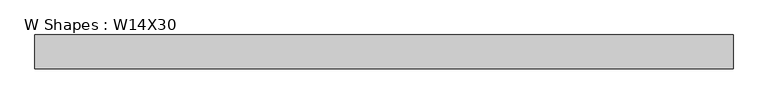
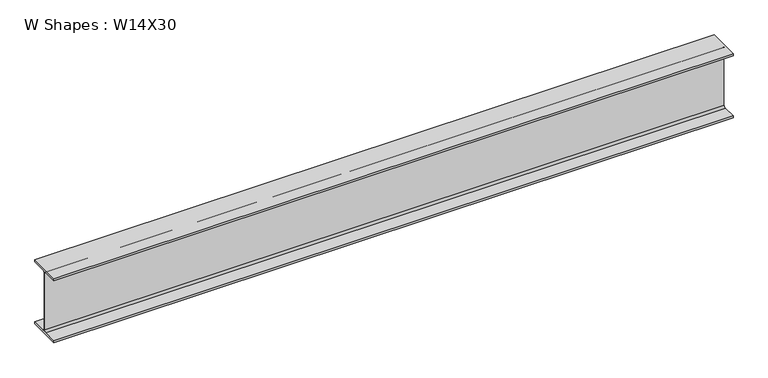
"""IFC4 building model written with IfcOpenShell, lengths in millimetres: beam geometry, W Shapes : W14X30."""

import ifcopenshell
import ifcopenshell.guid

model = None  # the IFC model being written
_history = None  # IfcOwnerHistory: only IFC2X3 demands one
_inside = {}  # id of a spatial element -> (the spatial element, [elements in it])
_under = {}  # id of a project, library or spatial element -> (it, [spatial elements below it])
_declared = {}  # id of a project -> (the project, [libraries it declares])
_typed = {}  # id of a type object -> (the type object, [elements of that type])
_made_of = {}  # id of a material, layer set ... -> (it, [elements and type objects made of it])


def new_model(schema):
    """Start an empty IFC model of exactly this schema.

    Asked for "IFC4X3", IfcOpenShell would pick the latest addendum, in which some entities
    have other attributes; the version numbers below select the first issue.
    IFC2X3 requires an IfcOwnerHistory on every rooted entity: one is made here for all.
    """
    global model, _history
    if schema == "IFC4X3":
        model = ifcopenshell.file(schema_version=(4, 3, 0, 0))
    else:
        model = ifcopenshell.file(schema=schema)
    _inside.clear()
    _under.clear()
    _declared.clear()
    _typed.clear()
    _made_of.clear()
    _history = None
    if model.schema == "IFC2X3":
        org = make("IfcOrganization", Name="unknown")
        user = make(
            "IfcPersonAndOrganization",
            ThePerson=make("IfcPerson", FamilyName="unknown"),
            TheOrganization=org,
        )
        app = make(
            "IfcApplication",
            ApplicationDeveloper=org,
            Version="unknown",
            ApplicationFullName="unknown",
            ApplicationIdentifier="unknown",
        )
        _history = make(
            "IfcOwnerHistory",
            OwningUser=user,
            OwningApplication=app,
            ChangeAction="ADDED",
            CreationDate=0,
        )
    return model


def make(cls, **values):
    """One entity of the class cls with the attributes given. An attribute that is None is left unset."""
    return model.create_entity(
        cls, **{name: value for name, value in values.items() if value is not None}
    )


def rooted(cls, **values):
    """An entity with a GlobalId (a new one), such as an element, a storey or a relation."""
    return make(cls, GlobalId=ifcopenshell.guid.new(), OwnerHistory=_history, **values)


def si_unit(unit_type, name, prefix=None):
    """IfcSIUnit, for example si_unit("LENGTHUNIT", "METRE", prefix="MILLI")."""
    return make("IfcSIUnit", UnitType=unit_type, Prefix=prefix, Name=name)


def assignment(units):
    """IfcUnitAssignment: the units of a project."""
    return None if units is None else make("IfcUnitAssignment", Units=units)


def point(xyz):
    """IfcCartesianPoint."""
    return None if xyz is None else make("IfcCartesianPoint", Coordinates=xyz)


def direction(xyz):
    """IfcDirection."""
    return None if xyz is None else make("IfcDirection", DirectionRatios=xyz)


def frame(location, z_axis=None, x_axis=None):
    """IfcAxis2Placement3D, a coordinate frame: its origin and axes. An axis left out is left unset."""
    return make(
        "IfcAxis2Placement3D",
        Location=point(location),
        Axis=direction(z_axis),
        RefDirection=direction(x_axis),
    )


def frame_2d(location, x_axis=None):
    """IfcAxis2Placement2D, a coordinate frame in the plane: its origin and x axis."""
    return make(
        "IfcAxis2Placement2D", Location=point(location), RefDirection=direction(x_axis)
    )


def origin():
    """The frame at (0, 0, 0) with its axes left unset."""
    return frame((0.0, 0.0, 0.0))


def place(relative_to, where):
    """IfcLocalPlacement: puts the frame where relative to a parent placement (None: the world)."""
    return make(
        "IfcLocalPlacement", PlacementRelTo=relative_to, RelativePlacement=where
    )


def context(
    kind, dimensions, precision=None, world=None, true_north=None, identifier=None
):
    """IfcGeometricRepresentationContext, for example the 3D "Model" context."""
    return make(
        "IfcGeometricRepresentationContext",
        ContextIdentifier=identifier,
        ContextType=kind,
        CoordinateSpaceDimension=dimensions,
        Precision=precision,
        WorldCoordinateSystem=world,
        TrueNorth=true_north,
    )


def project(units=None, contexts=None):
    """IfcProject with its units and contexts."""
    return rooted(
        "IfcProject",
        Name="project",
        RepresentationContexts=contexts,
        UnitsInContext=assignment(units),
    )


def spatial(cls, under=None, at=None, **own):
    """A site, building, storey or space (cls), placed at a placement, below another one or the project."""
    s = rooted(cls, ObjectPlacement=at, **own)
    if under is not None:
        _under.setdefault(under.id(), (under, []))[1].append(s)
    return s


def polyline(points):
    """IfcPolyline through the points."""
    return make("IfcPolyline", Points=[point(p) for p in points])


def circle_curve(where, radius):
    """IfcCircle in the frame where."""
    return make("IfcCircle", Position=where, Radius=radius)


def trimmed(basis, trim1, trim2, sense, master):
    """IfcTrimmedCurve: the piece of a basis curve between two trims."""
    return make(
        "IfcTrimmedCurve",
        BasisCurve=basis,
        Trim1=trim1,
        Trim2=trim2,
        SenseAgreement=sense,
        MasterRepresentation=master,
    )


def segment(curve, same_sense, transition):
    """IfcCompositeCurveSegment."""
    return make(
        "IfcCompositeCurveSegment",
        Transition=transition,
        SameSense=same_sense,
        ParentCurve=curve,
    )


def composite_curve(segments, self_intersect=None):
    """IfcCompositeCurve: segments joined end to end."""
    return make("IfcCompositeCurve", Segments=segments, SelfIntersect=self_intersect)


def outline(outer, holes=None, kind="AREA"):
    """IfcArbitraryClosedProfileDef: a profile drawn as a closed curve; with holes, ...WithVoids."""
    if holes is None:
        return make("IfcArbitraryClosedProfileDef", ProfileType=kind, OuterCurve=outer)
    return make(
        "IfcArbitraryProfileDefWithVoids",
        ProfileType=kind,
        OuterCurve=outer,
        InnerCurves=holes,
    )


def extrude(swept, where, along, depth):
    """IfcExtrudedAreaSolid: the profile swept, set in the frame where, extruded along a direction by depth."""
    return make(
        "IfcExtrudedAreaSolid",
        SweptArea=swept,
        Position=where,
        ExtrudedDirection=direction(along),
        Depth=depth,
    )


def shape(context_of_items, identifier, shape_type, items):
    """IfcShapeRepresentation: the items that make up one representation, for example the "Body"."""
    return make(
        "IfcShapeRepresentation",
        ContextOfItems=context_of_items,
        RepresentationIdentifier=identifier,
        RepresentationType=shape_type,
        Items=items,
    )


def source(mapping_origin, context_of_items, identifier, shape_type, items):
    """IfcRepresentationMap: a shape defined once, which mapped items show again and again."""
    return make(
        "IfcRepresentationMap",
        MappingOrigin=mapping_origin,
        MappedRepresentation=shape(context_of_items, identifier, shape_type, items),
    )


def transform(
    local_origin,
    x_axis=None,
    y_axis=None,
    z_axis=None,
    scale=None,
    scale2=None,
    scale3=None,
    uniform=True,
):
    """IfcCartesianTransformationOperator3D, or its non-uniform kind. x_axis, y_axis, z_axis: its Axis1, 2, 3."""
    if uniform:
        return make(
            "IfcCartesianTransformationOperator3D",
            Axis1=direction(x_axis),
            Axis2=direction(y_axis),
            LocalOrigin=point(local_origin),
            Scale=scale,
            Axis3=direction(z_axis),
        )
    return make(
        "IfcCartesianTransformationOperator3DnonUniform",
        Axis1=direction(x_axis),
        Axis2=direction(y_axis),
        LocalOrigin=point(local_origin),
        Scale=scale,
        Axis3=direction(z_axis),
        Scale2=scale2,
        Scale3=scale3,
    )


def mapped(mapping_source, mapping_target):
    """IfcMappedItem: shows the shape of a source again, moved by a transform."""
    return make(
        "IfcMappedItem", MappingSource=mapping_source, MappingTarget=mapping_target
    )


def made_of(thing, what):
    """Note that an element or type object is made of a material, layer set ...; save() writes the relation."""
    if what is not None:
        _made_of.setdefault(what.id(), (what, []))[1].append(thing)
    return thing


def element(
    cls,
    number,
    at=None,
    inside=None,
    cuts=None,
    type_object=None,
    material=None,
    context=None,
    identifier="Body",
    shape_type=None,
    held_by="IfcProductDefinitionShape",
    body=None,
    shapes=None,
    **own,
):
    """One element of the class cls, such as IfcWall. Its Tag is "e" and its number.

    at: its placement. inside: the storey or other place that contains it. cuts: it is an
    opening in that element (IfcRelVoidsElement). A single representation is given by context,
    identifier, shape_type and body (its items); several are given by shapes. held_by: the class
    of the entity that holds the representations. save() writes the other relations.
    """
    e = rooted(cls, Tag="e%d" % number, ObjectPlacement=at, **own)
    if body is not None:
        shapes = [shape(context, identifier, shape_type, body)]
    if shapes is not None:
        e.Representation = make(held_by, Representations=shapes)
    if inside is not None:
        _inside.setdefault(inside.id(), (inside, []))[1].append(e)
    if cuts is not None:
        rooted(
            "IfcRelVoidsElement", RelatingBuildingElement=cuts, RelatedOpeningElement=e
        )
    if type_object is not None:
        _typed.setdefault(type_object.id(), (type_object, []))[1].append(e)
    return made_of(e, material)


def aggregate(whole, parts):
    """IfcRelAggregates: a whole, such as a stair, and the parts it consists of."""
    return rooted("IfcRelAggregates", RelatingObject=whole, RelatedObjects=parts)


def save(model, path):
    """Write the relations noted so far, then the file.

    IfcRelAggregates (storeys below a building ...), IfcRelContainedInSpatialStructure (elements
    in a storey), IfcRelDefinesByType, IfcRelAssociatesMaterial and IfcRelDeclares: one each for
    every whole, place, type object, material and project.
    """
    for whole, parts in _under.values():
        aggregate(whole, parts)
    for where, things in _inside.values():
        rooted(
            "IfcRelContainedInSpatialStructure",
            RelatedElements=things,
            RelatingStructure=where,
        )
    for kind, things in _typed.values():
        rooted("IfcRelDefinesByType", RelatedObjects=things, RelatingType=kind)
    for what, things in _made_of.values():
        rooted("IfcRelAssociatesMaterial", RelatedObjects=things, RelatingMaterial=what)
    for by, libraries in _declared.values():
        rooted("IfcRelDeclares", RelatingContext=by, RelatedDefinitions=libraries)
    model.write(path)


def w_shapes_w14x30_3a7400f0(model_context):
    return source(origin(), model_context, "Body", "SweptSolid", [
        extrude(outline(composite_curve([segment(polyline([(85.471, -165.354), (85.471, -175.26), (-85.471, -175.26), (-85.471, -165.354), (-13.589, -165.354)]), True, "CONTINUOUS"), segment(trimmed(circle_curve(frame_2d((-13.589, -155.194)), 10.16), [point((-13.589, -165.354))], [point((-3.429, -155.194))], True, "CARTESIAN"), True, "CONTINUOUS"), segment(polyline([(-3.429, -155.194), (-3.429, 155.194)]), True, "CONTINUOUS"), segment(trimmed(circle_curve(frame_2d((-13.589, 155.194)), 10.16), [point((-3.429, 155.194))], [point((-13.589, 165.354))], True, "CARTESIAN"), True, "CONTINUOUS"), segment(polyline([(-13.589, 165.354), (-85.471, 165.354), (-85.471, 175.26), (85.471, 175.26), (85.471, 165.354), (13.589, 165.354)]), True, "CONTINUOUS"), segment(trimmed(circle_curve(frame_2d((13.589, 155.194)), 10.16), [point((13.589, 165.354))], [point((3.429, 155.194))], True, "CARTESIAN"), True, "CONTINUOUS"), segment(polyline([(3.429, 155.194), (3.429, -155.194)]), True, "CONTINUOUS"), segment(trimmed(circle_curve(frame_2d((13.589, -155.194)), 10.16), [point((3.429, -155.194))], [point((13.589, -165.354))], True, "CARTESIAN"), True, "CONTINUOUS"), segment(polyline([(13.589, -165.354), (85.471, -165.354)]), True, "CONTINUOUS")], self_intersect=False)), frame((-1863.3023799, 0.0, 0.0), z_axis=(1.0, 0.0, 0.0), x_axis=(0.0, 1.0, 0.0)), (0.0, 0.0, 1.0), 3521.1389716),
    ])


if __name__ == "__main__":
    model = new_model("IFC4")
    model_context = context("Model", 3, world=origin())
    ifc_project = project(units=[si_unit("LENGTHUNIT", "METRE", prefix="MILLI")], contexts=[model_context])
    site = spatial("IfcSite", under=ifc_project)
    building = spatial("IfcBuilding", under=site)
    placement = place(None, origin())
    w_shapes_w14x30_shape = w_shapes_w14x30_3a7400f0(model_context)
    element("IfcBeam", 1, ObjectType="W Shapes : W14X30", at=placement, inside=building, context=model_context, shape_type="MappedRepresentation", body=[
        mapped(w_shapes_w14x30_shape, transform((0.0, 0.0, 0.0), x_axis=(1.0, 0.0, 0.0), y_axis=(0.0, 1.0, 0.0), z_axis=(0.0, 0.0, 1.0))),
    ])
    save(model, "model.ifc")
